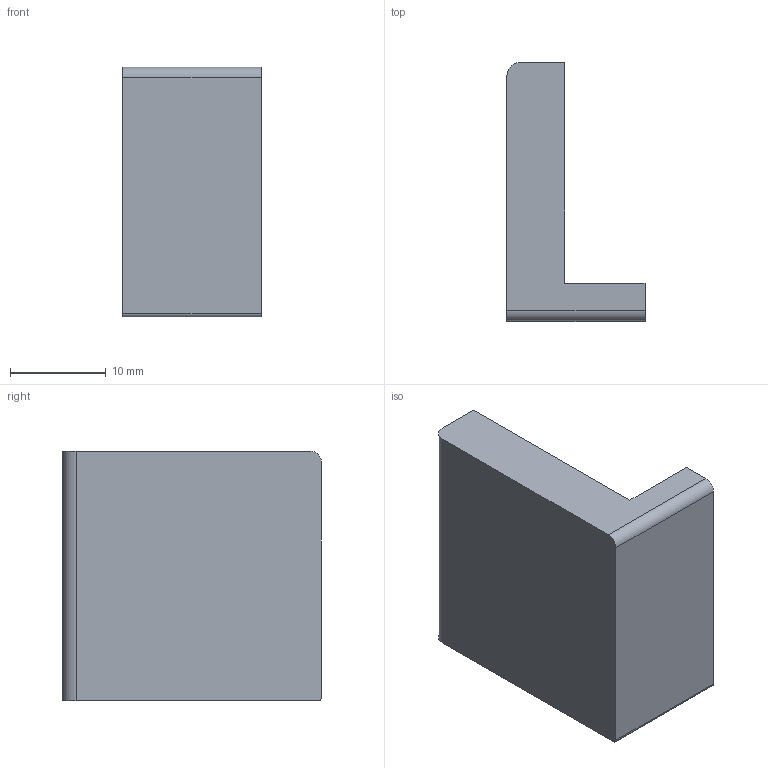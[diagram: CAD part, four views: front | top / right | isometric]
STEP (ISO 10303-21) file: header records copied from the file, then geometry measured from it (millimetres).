
FILE_DESCRIPTION(('Open CASCADE Model'),'2;1');
FILE_NAME('Open CASCADE Shape Model','2021-05-07T11:42:44',('Author'),( 'Open CASCADE'),'Open CASCADE STEP processor 7.4','Open CASCADE 7.4' ,'Unknown');
FILE_SCHEMA(('AUTOMOTIVE_DESIGN { 1 0 10303 214 1 1 1 1 }'));
Length unit declared in the file: millimetre
Products named in the file (1): Open CASCADE STEP translator 7.4 5
Bounding box: 14.43 x 27.04 x 26.11 mm (x, y, z)
Volume: 5111.8 mm3; surface area: 2531.7 mm2
Topology: 1 solids, 1 shells, 11 faces, 27 edges, 18 vertices
Faces by surface type: plane 8, cylinder 3
Entity records: 694 total; most frequent: CARTESIAN_POINT 123, DIRECTION 109, LINE 69, VECTOR 69, ORIENTED_EDGE 54, PCURVE 54, DEFINITIONAL_REPRESENTATION 54, EDGE_CURVE 27
